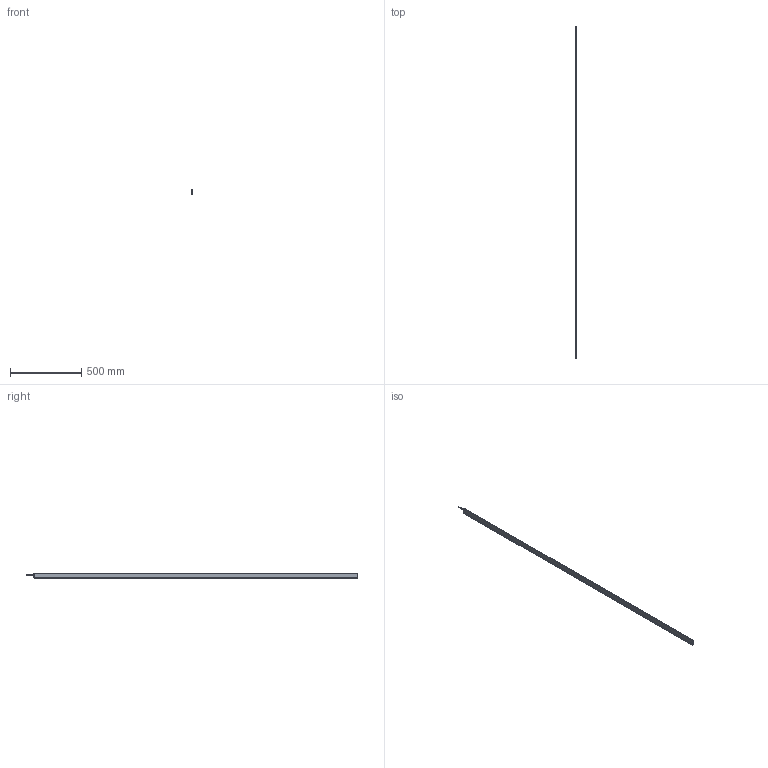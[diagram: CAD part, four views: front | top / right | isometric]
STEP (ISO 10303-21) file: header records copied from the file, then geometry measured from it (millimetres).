
FILE_DESCRIPTION (( 'STEP AP214' ), '1' );
FILE_NAME ('ILG-L-K2-2268mm.STEP', '2017-07-11T08:35:20', ( '' ), ( '' ), 'SwSTEP 2.0', 'SolidWorks 2016', '' );
FILE_SCHEMA (( 'AUTOMOTIVE_DESIGN' ));
Length unit declared in the file: millimetre
Products named in the file (1): ILG-L-K2-2268mm
Bounding box: 9 x 2322.5 x 40.71 mm (x, y, z)
Surface area: 447309.9 mm2 (no closed solid volume)
Topology: 0 solids, 13 shells, 681 faces, 1786 edges, 1135 vertices
Faces by surface type: cylinder 288, plane 255, cone 90, bspline 32, torus 16
Entity records: 30628 total; most frequent: CARTESIAN_POINT 6489, ORIENTED_EDGE 3525, DIRECTION 3406, EDGE_CURVE 1770, AXIS2_PLACEMENT_3D 1301, VERTEX_POINT 1135, VECTOR 804, LINE 804
